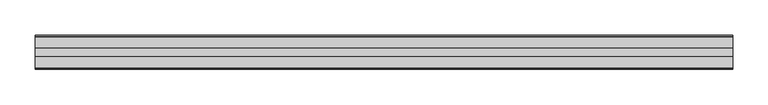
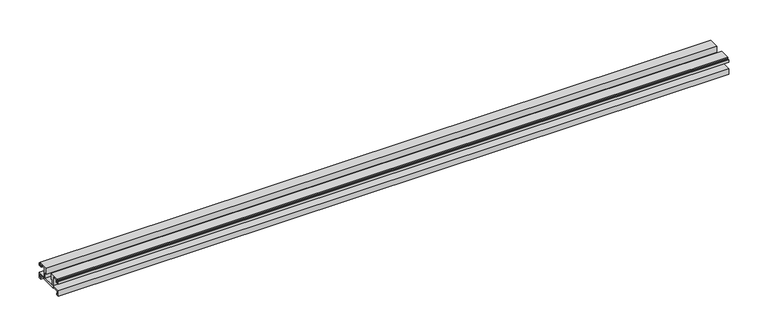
"""IFC4 building model written with IfcOpenShell, lengths in millimetres: proxy geometry, Weiku - Montante - Acoplamento vidro : Weiku - Montante - Acoplamento vidro."""

import ifcopenshell
import ifcopenshell.guid

model = None  # the IFC model being written
_history = None  # IfcOwnerHistory: only IFC2X3 demands one
_inside = {}  # id of a spatial element -> (the spatial element, [elements in it])
_under = {}  # id of a project, library or spatial element -> (it, [spatial elements below it])
_declared = {}  # id of a project -> (the project, [libraries it declares])
_typed = {}  # id of a type object -> (the type object, [elements of that type])
_made_of = {}  # id of a material, layer set ... -> (it, [elements and type objects made of it])


def new_model(schema):
    """Start an empty IFC model of exactly this schema.

    Asked for "IFC4X3", IfcOpenShell would pick the latest addendum, in which some entities
    have other attributes; the version numbers below select the first issue.
    IFC2X3 requires an IfcOwnerHistory on every rooted entity: one is made here for all.
    """
    global model, _history
    if schema == "IFC4X3":
        model = ifcopenshell.file(schema_version=(4, 3, 0, 0))
    else:
        model = ifcopenshell.file(schema=schema)
    _inside.clear()
    _under.clear()
    _declared.clear()
    _typed.clear()
    _made_of.clear()
    _history = None
    if model.schema == "IFC2X3":
        org = make("IfcOrganization", Name="unknown")
        user = make(
            "IfcPersonAndOrganization",
            ThePerson=make("IfcPerson", FamilyName="unknown"),
            TheOrganization=org,
        )
        app = make(
            "IfcApplication",
            ApplicationDeveloper=org,
            Version="unknown",
            ApplicationFullName="unknown",
            ApplicationIdentifier="unknown",
        )
        _history = make(
            "IfcOwnerHistory",
            OwningUser=user,
            OwningApplication=app,
            ChangeAction="ADDED",
            CreationDate=0,
        )
    return model


def make(cls, **values):
    """One entity of the class cls with the attributes given. An attribute that is None is left unset."""
    return model.create_entity(
        cls, **{name: value for name, value in values.items() if value is not None}
    )


def rooted(cls, **values):
    """An entity with a GlobalId (a new one), such as an element, a storey or a relation."""
    return make(cls, GlobalId=ifcopenshell.guid.new(), OwnerHistory=_history, **values)


def si_unit(unit_type, name, prefix=None):
    """IfcSIUnit, for example si_unit("LENGTHUNIT", "METRE", prefix="MILLI")."""
    return make("IfcSIUnit", UnitType=unit_type, Prefix=prefix, Name=name)


def assignment(units):
    """IfcUnitAssignment: the units of a project."""
    return None if units is None else make("IfcUnitAssignment", Units=units)


def point(xyz):
    """IfcCartesianPoint."""
    return None if xyz is None else make("IfcCartesianPoint", Coordinates=xyz)


def direction(xyz):
    """IfcDirection."""
    return None if xyz is None else make("IfcDirection", DirectionRatios=xyz)


def frame(location, z_axis=None, x_axis=None):
    """IfcAxis2Placement3D, a coordinate frame: its origin and axes. An axis left out is left unset."""
    return make(
        "IfcAxis2Placement3D",
        Location=point(location),
        Axis=direction(z_axis),
        RefDirection=direction(x_axis),
    )


def origin():
    """The frame at (0, 0, 0) with its axes left unset."""
    return frame((0.0, 0.0, 0.0))


def place(relative_to, where):
    """IfcLocalPlacement: puts the frame where relative to a parent placement (None: the world)."""
    return make(
        "IfcLocalPlacement", PlacementRelTo=relative_to, RelativePlacement=where
    )


def context(
    kind, dimensions, precision=None, world=None, true_north=None, identifier=None
):
    """IfcGeometricRepresentationContext, for example the 3D "Model" context."""
    return make(
        "IfcGeometricRepresentationContext",
        ContextIdentifier=identifier,
        ContextType=kind,
        CoordinateSpaceDimension=dimensions,
        Precision=precision,
        WorldCoordinateSystem=world,
        TrueNorth=true_north,
    )


def project(units=None, contexts=None):
    """IfcProject with its units and contexts."""
    return rooted(
        "IfcProject",
        Name="project",
        RepresentationContexts=contexts,
        UnitsInContext=assignment(units),
    )


def spatial(cls, under=None, at=None, **own):
    """A site, building, storey or space (cls), placed at a placement, below another one or the project."""
    s = rooted(cls, ObjectPlacement=at, **own)
    if under is not None:
        _under.setdefault(under.id(), (under, []))[1].append(s)
    return s


def polyline(points):
    """IfcPolyline through the points."""
    return make("IfcPolyline", Points=[point(p) for p in points])


def outline(outer, holes=None, kind="AREA"):
    """IfcArbitraryClosedProfileDef: a profile drawn as a closed curve; with holes, ...WithVoids."""
    if holes is None:
        return make("IfcArbitraryClosedProfileDef", ProfileType=kind, OuterCurve=outer)
    return make(
        "IfcArbitraryProfileDefWithVoids",
        ProfileType=kind,
        OuterCurve=outer,
        InnerCurves=holes,
    )


def extrude(swept, where, along, depth):
    """IfcExtrudedAreaSolid: the profile swept, set in the frame where, extruded along a direction by depth."""
    return make(
        "IfcExtrudedAreaSolid",
        SweptArea=swept,
        Position=where,
        ExtrudedDirection=direction(along),
        Depth=depth,
    )


def shape(context_of_items, identifier, shape_type, items):
    """IfcShapeRepresentation: the items that make up one representation, for example the "Body"."""
    return make(
        "IfcShapeRepresentation",
        ContextOfItems=context_of_items,
        RepresentationIdentifier=identifier,
        RepresentationType=shape_type,
        Items=items,
    )


def source(mapping_origin, context_of_items, identifier, shape_type, items):
    """IfcRepresentationMap: a shape defined once, which mapped items show again and again."""
    return make(
        "IfcRepresentationMap",
        MappingOrigin=mapping_origin,
        MappedRepresentation=shape(context_of_items, identifier, shape_type, items),
    )


def transform(
    local_origin,
    x_axis=None,
    y_axis=None,
    z_axis=None,
    scale=None,
    scale2=None,
    scale3=None,
    uniform=True,
):
    """IfcCartesianTransformationOperator3D, or its non-uniform kind. x_axis, y_axis, z_axis: its Axis1, 2, 3."""
    if uniform:
        return make(
            "IfcCartesianTransformationOperator3D",
            Axis1=direction(x_axis),
            Axis2=direction(y_axis),
            LocalOrigin=point(local_origin),
            Scale=scale,
            Axis3=direction(z_axis),
        )
    return make(
        "IfcCartesianTransformationOperator3DnonUniform",
        Axis1=direction(x_axis),
        Axis2=direction(y_axis),
        LocalOrigin=point(local_origin),
        Scale=scale,
        Axis3=direction(z_axis),
        Scale2=scale2,
        Scale3=scale3,
    )


def mapped(mapping_source, mapping_target):
    """IfcMappedItem: shows the shape of a source again, moved by a transform."""
    return make(
        "IfcMappedItem", MappingSource=mapping_source, MappingTarget=mapping_target
    )


def made_of(thing, what):
    """Note that an element or type object is made of a material, layer set ...; save() writes the relation."""
    if what is not None:
        _made_of.setdefault(what.id(), (what, []))[1].append(thing)
    return thing


def element(
    cls,
    number,
    at=None,
    inside=None,
    cuts=None,
    type_object=None,
    material=None,
    context=None,
    identifier="Body",
    shape_type=None,
    held_by="IfcProductDefinitionShape",
    body=None,
    shapes=None,
    **own,
):
    """One element of the class cls, such as IfcWall. Its Tag is "e" and its number.

    at: its placement. inside: the storey or other place that contains it. cuts: it is an
    opening in that element (IfcRelVoidsElement). A single representation is given by context,
    identifier, shape_type and body (its items); several are given by shapes. held_by: the class
    of the entity that holds the representations. save() writes the other relations.
    """
    e = rooted(cls, Tag="e%d" % number, ObjectPlacement=at, **own)
    if body is not None:
        shapes = [shape(context, identifier, shape_type, body)]
    if shapes is not None:
        e.Representation = make(held_by, Representations=shapes)
    if inside is not None:
        _inside.setdefault(inside.id(), (inside, []))[1].append(e)
    if cuts is not None:
        rooted(
            "IfcRelVoidsElement", RelatingBuildingElement=cuts, RelatedOpeningElement=e
        )
    if type_object is not None:
        _typed.setdefault(type_object.id(), (type_object, []))[1].append(e)
    return made_of(e, material)


def aggregate(whole, parts):
    """IfcRelAggregates: a whole, such as a stair, and the parts it consists of."""
    return rooted("IfcRelAggregates", RelatingObject=whole, RelatedObjects=parts)


def save(model, path):
    """Write the relations noted so far, then the file.

    IfcRelAggregates (storeys below a building ...), IfcRelContainedInSpatialStructure (elements
    in a storey), IfcRelDefinesByType, IfcRelAssociatesMaterial and IfcRelDeclares: one each for
    every whole, place, type object, material and project.
    """
    for whole, parts in _under.values():
        aggregate(whole, parts)
    for where, things in _inside.values():
        rooted(
            "IfcRelContainedInSpatialStructure",
            RelatedElements=things,
            RelatingStructure=where,
        )
    for kind, things in _typed.values():
        rooted("IfcRelDefinesByType", RelatedObjects=things, RelatingType=kind)
    for what, things in _made_of.values():
        rooted("IfcRelAssociatesMaterial", RelatedObjects=things, RelatingMaterial=what)
    for by, libraries in _declared.values():
        rooted("IfcRelDeclares", RelatingContext=by, RelatedDefinitions=libraries)
    model.write(path)


def generic_models_4579137f(model_context):
    return source(origin(), model_context, "Body", "SweptSolid", [
        extrude(outline(polyline([(35.405, 5.1494), (12.495, 5.1494), (12.495, 6.8004), (2.159, 6.8004), (2.159, 2.6094), (4.0216, 2.6094), (4.0216, 0.0), (-0.0014508, 0.0), (-0.0014508, 8.79), (12.954, 8.79), (12.954, 23.3104), (4.3603, 23.3104), (4.3603, 19.204), (0.0, 19.204), (0.0, 22.8024), (0.9736, 22.8024), (0.9736, 20.3894), (3.175, 20.3894), (3.175, 23.9454), (2.3735496, 23.9454), (2.3735496, 25.3), (17.4836, 25.3), (17.4836, 16.283), (15.4516, 16.283), (15.4516, 8.8), (32.4484, 8.8), (32.4484, 16.283), (30.4164, 16.283), (30.4164, 25.3), (45.5264504, 25.3), (45.5264504, 23.9454), (44.725, 23.9454), (44.725, 20.3894), (46.9264, 20.3894), (46.9264, 22.8024), (47.9, 22.8024), (47.9, 19.204), (43.5397, 19.204), (43.5397, 23.3104), (34.946, 23.3104), (34.946, 8.79), (47.9014508, 8.79), (47.9014508, 0.0), (43.8784, 0.0), (43.8784, 2.6094), (45.741, 2.6094), (45.741, 6.8004), (35.405, 6.8004), (35.405, 5.1494)])), frame((-491.825, 0.0, 0.0), z_axis=(1.0, 0.0, 0.0), x_axis=(0.0, 1.0, 0.0)), (0.0, 0.0, 1.0), 983.65),
    ])


if __name__ == "__main__":
    model = new_model("IFC4")
    model_context = context("Model", 3, world=origin())
    ifc_project = project(units=[si_unit("LENGTHUNIT", "METRE", prefix="MILLI")], contexts=[model_context])
    site = spatial("IfcSite", under=ifc_project)
    building = spatial("IfcBuilding", under=site)
    placement = place(None, origin())
    generic_models_shape = generic_models_4579137f(model_context)
    element("IfcBuildingElementProxy", 1, Name="Weiku - Montante - Acoplamento vidro : Weiku - Montante - Acoplamento vidro", ObjectType="Weiku - Montante - Acoplamento vidro : Weiku - Montante - Acoplamento vidro", at=placement, inside=building, context=model_context, shape_type="MappedRepresentation", body=[
        mapped(generic_models_shape, transform((0.0, 0.0, 0.0), x_axis=(1.0, 0.0, 0.0), y_axis=(0.0, 1.0, 0.0), z_axis=(0.0, 0.0, 1.0))),
    ])
    save(model, "model.ifc")
